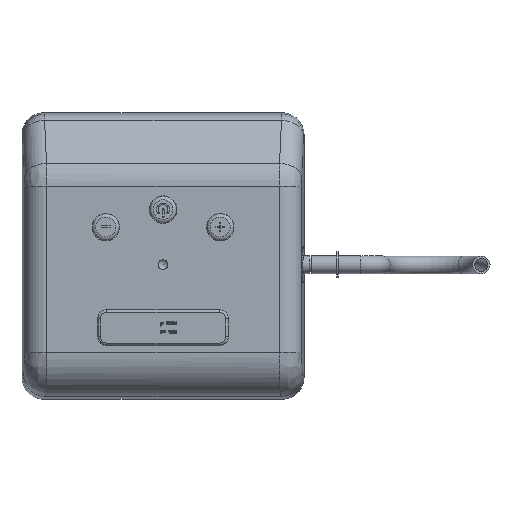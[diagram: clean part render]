
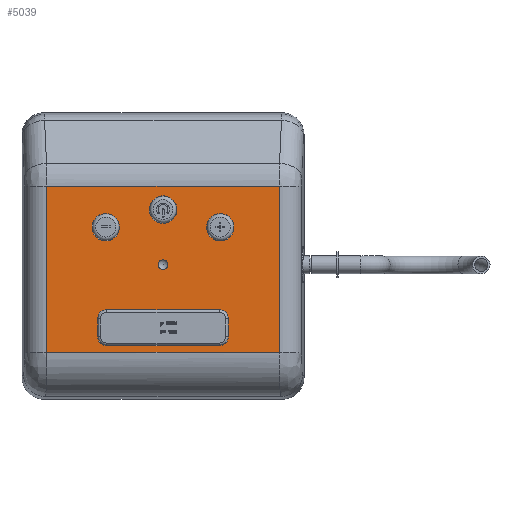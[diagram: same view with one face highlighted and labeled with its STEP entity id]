
A CAD part, top view. The second image highlights one B-rep face of the part: STEP entity #5039.
In plain terms, the highlighted planar face has unit normal (0, 0, 1).
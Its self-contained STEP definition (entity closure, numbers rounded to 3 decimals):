
#4066=PLANE('',#16017);
#4368=FACE_BOUND('',#6676,.T.);
#4369=FACE_BOUND('',#6677,.T.);
#4370=FACE_BOUND('',#6678,.T.);
#4371=FACE_BOUND('',#6679,.T.);
#4372=FACE_BOUND('',#6680,.T.);
#4373=FACE_BOUND('',#6681,.T.);
#5039=ADVANCED_FACE('',(#4368,#4369,#4370,#4371,#4372,#4373),#4066,.T.);
#6676=EDGE_LOOP('',(#10123,#10124,#10125,#10126));
#6677=EDGE_LOOP('',(#10127,#10128,#10129,#10130,#10131,#10132,#10133,#10134));
#6678=EDGE_LOOP('',(#10135));
#6679=EDGE_LOOP('',(#10136));
#6680=EDGE_LOOP('',(#10137));
#6681=EDGE_LOOP('',(#10138));
#7023=CIRCLE('',#16009,2.1);
#7024=CIRCLE('',#16010,2.1);
#7025=CIRCLE('',#16011,2.1);
#7026=CIRCLE('',#16012,2.1);
#7027=CIRCLE('',#16013,1.118);
#7028=CIRCLE('',#16014,3.1);
#7029=CIRCLE('',#16015,3.135);
#7030=CIRCLE('',#16016,3.1);
#10123=ORIENTED_EDGE('',*,*,#13166,.T.);
#10124=ORIENTED_EDGE('',*,*,#13167,.T.);
#10125=ORIENTED_EDGE('',*,*,#13144,.T.);
#10126=ORIENTED_EDGE('',*,*,#13168,.T.);
#10127=ORIENTED_EDGE('',*,*,#13169,.F.);
#10128=ORIENTED_EDGE('',*,*,#13170,.F.);
#10129=ORIENTED_EDGE('',*,*,#13171,.F.);
#10130=ORIENTED_EDGE('',*,*,#13172,.F.);
#10131=ORIENTED_EDGE('',*,*,#13173,.F.);
#10132=ORIENTED_EDGE('',*,*,#13174,.F.);
#10133=ORIENTED_EDGE('',*,*,#13175,.F.);
#10134=ORIENTED_EDGE('',*,*,#13176,.F.);
#10135=ORIENTED_EDGE('',*,*,#13177,.F.);
#10136=ORIENTED_EDGE('',*,*,#13178,.T.);
#10137=ORIENTED_EDGE('',*,*,#13179,.F.);
#10138=ORIENTED_EDGE('',*,*,#13180,.F.);
#11516=VERTEX_POINT('',#25579);
#11517=VERTEX_POINT('',#25581);
#11534=VERTEX_POINT('',#25623);
#11535=VERTEX_POINT('',#25624);
#11536=VERTEX_POINT('',#25628);
#11537=VERTEX_POINT('',#25629);
#11538=VERTEX_POINT('',#25631);
#11539=VERTEX_POINT('',#25633);
#11540=VERTEX_POINT('',#25635);
#11541=VERTEX_POINT('',#25637);
#11542=VERTEX_POINT('',#25639);
#11543=VERTEX_POINT('',#25641);
#11544=VERTEX_POINT('',#25644);
#11545=VERTEX_POINT('',#25646);
#11546=VERTEX_POINT('',#25648);
#11547=VERTEX_POINT('',#25650);
#13144=EDGE_CURVE('',#11517,#11516,#14137,.T.);
#13166=EDGE_CURVE('',#11534,#11535,#14147,.T.);
#13167=EDGE_CURVE('',#11535,#11517,#14148,.T.);
#13168=EDGE_CURVE('',#11516,#11534,#14149,.T.);
#13169=EDGE_CURVE('',#11536,#11537,#7023,.T.);
#13170=EDGE_CURVE('',#11538,#11536,#14150,.T.);
#13171=EDGE_CURVE('',#11539,#11538,#7024,.T.);
#13172=EDGE_CURVE('',#11540,#11539,#14151,.T.);
#13173=EDGE_CURVE('',#11541,#11540,#7025,.T.);
#13174=EDGE_CURVE('',#11542,#11541,#14152,.T.);
#13175=EDGE_CURVE('',#11543,#11542,#7026,.T.);
#13176=EDGE_CURVE('',#11537,#11543,#14153,.T.);
#13177=EDGE_CURVE('',#11544,#11544,#7027,.T.);
#13178=EDGE_CURVE('',#11545,#11545,#7028,.T.);
#13179=EDGE_CURVE('',#11546,#11546,#7029,.T.);
#13180=EDGE_CURVE('',#11547,#11547,#7030,.T.);
#14137=LINE('',#25580,#15257);
#14147=LINE('',#25622,#15267);
#14148=LINE('',#25625,#15268);
#14149=LINE('',#25626,#15269);
#14150=LINE('',#25630,#15270);
#14151=LINE('',#25634,#15271);
#14152=LINE('',#25638,#15272);
#14153=LINE('',#25642,#15273);
#15257=VECTOR('',#18543,1.);
#15267=VECTOR('',#18583,1.);
#15268=VECTOR('',#18584,1.);
#15269=VECTOR('',#18585,1.);
#15270=VECTOR('',#18588,1.);
#15271=VECTOR('',#18591,1.);
#15272=VECTOR('',#18594,1.);
#15273=VECTOR('',#18597,1.);
#16009=AXIS2_PLACEMENT_3D('',#25627,#18586,#18587);
#16010=AXIS2_PLACEMENT_3D('',#25632,#18589,#18590);
#16011=AXIS2_PLACEMENT_3D('',#25636,#18592,#18593);
#16012=AXIS2_PLACEMENT_3D('',#25640,#18595,#18596);
#16013=AXIS2_PLACEMENT_3D('',#25643,#18598,#18599);
#16014=AXIS2_PLACEMENT_3D('',#25645,#18600,#18601);
#16015=AXIS2_PLACEMENT_3D('',#25647,#18602,#18603);
#16016=AXIS2_PLACEMENT_3D('',#25649,#18604,#18605);
#16017=AXIS2_PLACEMENT_3D('',#25651,#18606,#18607);
#18543=DIRECTION('',(0.,1.,0.));
#18583=DIRECTION('',(0.,-1.,0.));
#18584=DIRECTION('',(1.,0.,0.));
#18585=DIRECTION('',(-1.,0.,0.));
#18586=DIRECTION('',(0.,0.,1.));
#18587=DIRECTION('',(1.,0.,0.));
#18588=DIRECTION('',(0.,1.,0.));
#18589=DIRECTION('',(0.,0.,1.));
#18590=DIRECTION('',(1.,0.,0.));
#18591=DIRECTION('',(1.,0.,0.));
#18592=DIRECTION('',(0.,0.,1.));
#18593=DIRECTION('',(1.,0.,0.));
#18594=DIRECTION('',(0.,-1.,0.));
#18595=DIRECTION('',(0.,0.,1.));
#18596=DIRECTION('',(1.,0.,0.));
#18597=DIRECTION('',(-1.,0.,0.));
#18598=DIRECTION('',(0.,0.,1.));
#18599=DIRECTION('',(1.,0.,0.));
#18600=DIRECTION('',(0.,0.,-1.));
#18601=DIRECTION('',(1.,0.,0.));
#18602=DIRECTION('',(0.,0.,1.));
#18603=DIRECTION('',(1.,0.,0.));
#18604=DIRECTION('',(0.,0.,1.));
#18605=DIRECTION('',(-1.,0.,0.));
#18606=DIRECTION('',(0.,0.,1.));
#18607=DIRECTION('',(0.,-1.,0.));
#25579=CARTESIAN_POINT('',(26.411,21.356,16.2));
#25580=CARTESIAN_POINT('',(26.411,29.356,16.2));
#25581=CARTESIAN_POINT('',(26.411,-16.428,16.2));
#25622=CARTESIAN_POINT('',(-26.411,-20.428,16.2));
#25623=CARTESIAN_POINT('',(-26.411,21.356,16.2));
#25624=CARTESIAN_POINT('',(-26.411,-16.428,16.2));
#25625=CARTESIAN_POINT('',(28.,-16.428,16.2));
#25626=CARTESIAN_POINT('',(28.,21.356,16.2));
#25627=CARTESIAN_POINT('',(12.75,-8.78,16.2));
#25628=CARTESIAN_POINT('',(14.85,-8.78,16.2));
#25629=CARTESIAN_POINT('',(12.75,-6.68,16.2));
#25630=CARTESIAN_POINT('',(14.85,32.275,16.2));
#25631=CARTESIAN_POINT('',(14.85,-12.78,16.2));
#25632=CARTESIAN_POINT('',(12.75,-12.78,16.2));
#25633=CARTESIAN_POINT('',(12.75,-14.88,16.2));
#25634=CARTESIAN_POINT('',(35.,-14.88,16.2));
#25635=CARTESIAN_POINT('',(-12.75,-14.88,16.2));
#25636=CARTESIAN_POINT('',(-12.75,-12.78,16.2));
#25637=CARTESIAN_POINT('',(-14.85,-12.78,16.2));
#25638=CARTESIAN_POINT('',(-14.85,32.275,16.2));
#25639=CARTESIAN_POINT('',(-14.85,-8.78,16.2));
#25640=CARTESIAN_POINT('',(-12.75,-8.78,16.2));
#25641=CARTESIAN_POINT('',(-12.75,-6.68,16.2));
#25642=CARTESIAN_POINT('',(35.,-6.68,16.2));
#25643=CARTESIAN_POINT('',(0.,3.5,16.2));
#25644=CARTESIAN_POINT('',(1.118,3.5,16.2));
#25645=CARTESIAN_POINT('',(-13.,12.,16.2));
#25646=CARTESIAN_POINT('',(-9.9,12.,16.2));
#25647=CARTESIAN_POINT('',(0.,16.,16.2));
#25648=CARTESIAN_POINT('',(3.135,16.,16.2));
#25649=CARTESIAN_POINT('',(13.,12.,16.2));
#25650=CARTESIAN_POINT('',(9.9,12.,16.2));
#25651=CARTESIAN_POINT('',(28.,32.275,16.2));
